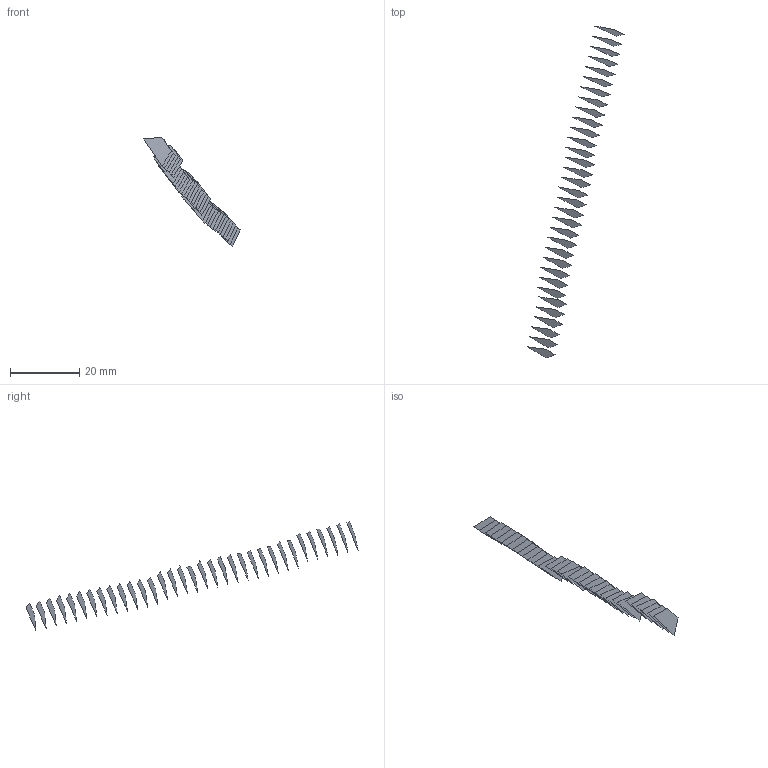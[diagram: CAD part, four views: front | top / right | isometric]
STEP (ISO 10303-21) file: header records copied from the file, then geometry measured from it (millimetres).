
FILE_DESCRIPTION(('FreeCAD Model'),'2;1');
FILE_NAME('Open CASCADE Shape Model','2022-05-22T07:50:29',('FreeCAD'),( 'FreeCAD'),'Open CASCADE STEP processor 7.5','FreeCAD','Unknown');
FILE_SCHEMA(('AUTOMOTIVE_DESIGN { 1 0 10303 214 1 1 1 1 }'));
Length unit declared in the file: millimetre
Products named in the file (34): Open CASCADE STEP translator 7.5 1; Open CASCADE STEP translator 7.5 1.1; Open CASCADE STEP translator 7.5 1.2; Open CASCADE STEP translator 7.5 1.3; Open CASCADE STEP translator 7.5 1.4; Open CASCADE STEP translator 7.5 1.5; Open CASCADE STEP translator 7.5 1.6; Open CASCADE STEP translator 7.5 1.7; Open CASCADE STEP translator 7.5 1.8; Open CASCADE STEP translator 7.5 1.9; Open CASCADE STEP translator 7.5 1.10; Open CASCADE STEP translator 7.5 1.11; Open CASCADE STEP translator 7.5 1.12; Open CASCADE STEP translator 7.5 1.13; Open CASCADE STEP translator 7.5 1.14; Open CASCADE STEP translator 7.5 1.15; Open CASCADE STEP translator 7.5 1.16; Open CASCADE STEP translator 7.5 1.17; Open CASCADE STEP translator 7.5 1.18; Open CASCADE STEP translator 7.5 1.19; Open CASCADE STEP translator 7.5 1.20; Open CASCADE STEP translator 7.5 1.21; Open CASCADE STEP translator 7.5 1.22; Open CASCADE STEP translator 7.5 1.23; Open CASCADE STEP translator 7.5 1.24; Open CASCADE STEP translator 7.5 1.25; Open CASCADE STEP translator 7.5 1.26; Open CASCADE STEP translator 7.5 1.27; Open CASCADE STEP translator 7.5 1.28; Open CASCADE STEP translator 7.5 1.29; Open CASCADE STEP translator 7.5 1.30; Open CASCADE STEP translator 7.5 1.31; Open CASCADE STEP translator 7.5 1.32; Open CASCADE STEP translator 7.5 1.33
Assembly tree (33 placements, depth 2):
  Open CASCADE STEP translator 7.5 1
    Open CASCADE STEP translator 7.5 1.1
    Open CASCADE STEP translator 7.5 1.2
    Open CASCADE STEP translator 7.5 1.3
    Open CASCADE STEP translator 7.5 1.4
    Open CASCADE STEP translator 7.5 1.5
    Open CASCADE STEP translator 7.5 1.6
    Open CASCADE STEP translator 7.5 1.7
    Open CASCADE STEP translator 7.5 1.8
    Open CASCADE STEP translator 7.5 1.9
    Open CASCADE STEP translator 7.5 1.10
    Open CASCADE STEP translator 7.5 1.11
    Open CASCADE STEP translator 7.5 1.12
    Open CASCADE STEP translator 7.5 1.13
    Open CASCADE STEP translator 7.5 1.14
    Open CASCADE STEP translator 7.5 1.15
    Open CASCADE STEP translator 7.5 1.16
    Open CASCADE STEP translator 7.5 1.17
    Open CASCADE STEP translator 7.5 1.18
    Open CASCADE STEP translator 7.5 1.19
    Open CASCADE STEP translator 7.5 1.20
    Open CASCADE STEP translator 7.5 1.21
    Open CASCADE STEP translator 7.5 1.22
    Open CASCADE STEP translator 7.5 1.23
    Open CASCADE STEP translator 7.5 1.24
    Open CASCADE STEP translator 7.5 1.25
    Open CASCADE STEP translator 7.5 1.26
    Open CASCADE STEP translator 7.5 1.27
    Open CASCADE STEP translator 7.5 1.28
    Open CASCADE STEP translator 7.5 1.29
    Open CASCADE STEP translator 7.5 1.30
    Open CASCADE STEP translator 7.5 1.31
    Open CASCADE STEP translator 7.5 1.32
    Open CASCADE STEP translator 7.5 1.33
Bounding box: 27.98 x 95.88 x 31.57 mm (x, y, z)
Surface area: 1149.5 mm2 (no closed solid volume)
Topology: 0 solids, 33 shells, 33 faces, 348 edges, 348 vertices
Faces by surface type: bspline 33
Entity records: 5464 total; most frequent: CARTESIAN_POINT 1906, B_SPLINE_CURVE_WITH_KNOTS 696, ORIENTED_EDGE 348, EDGE_CURVE 348, VERTEX_POINT 348, SURFACE_CURVE 348, PCURVE 348, DEFINITIONAL_REPRESENTATION 348
